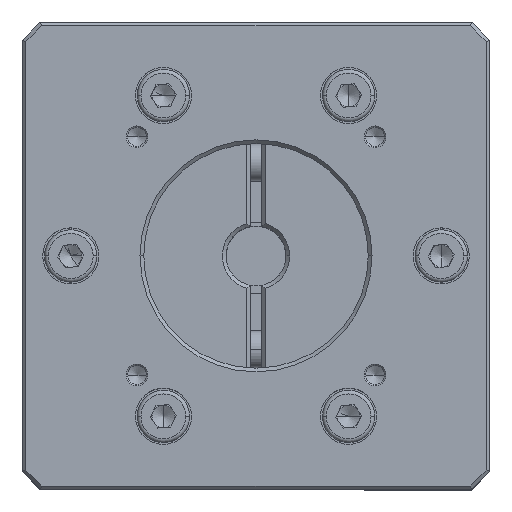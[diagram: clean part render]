
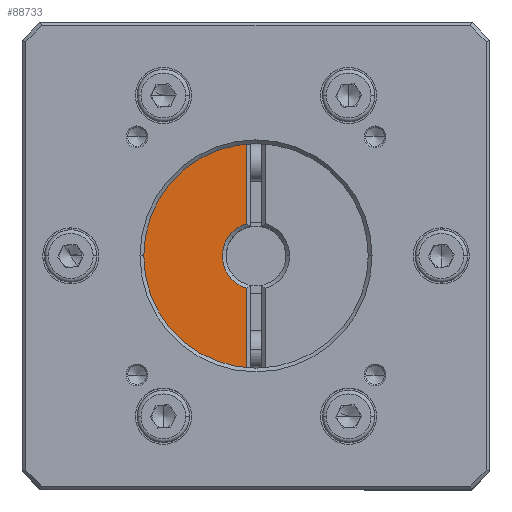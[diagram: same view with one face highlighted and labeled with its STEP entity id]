
A CAD part, top view. The second image highlights one B-rep face of the part: STEP entity #88733.
In plain terms, the highlighted planar face has unit normal (0, 0, 1).
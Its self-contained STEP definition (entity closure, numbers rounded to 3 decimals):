
#146 = AXIS2_PLACEMENT_3D ( 'NONE', #30399, #96120, #39841 ) ;
#2401 = DIRECTION ( 'NONE',  ( -1., 0., 0. ) ) ;
#8067 = DIRECTION ( 'NONE',  ( -1., 0., 0. ) ) ;
#8273 = DIRECTION ( 'NONE',  ( -1., 0., 0. ) ) ;
#15557 = CARTESIAN_POINT ( 'NONE',  ( -96.388, 23.814, 17.777 ) ) ;
#15765 = CARTESIAN_POINT ( 'NONE',  ( -96.388, 38.677, 17.777 ) ) ;
#17104 = PLANE ( 'NONE',  #91481 ) ;
#17111 = VECTOR ( 'NONE', #24614, 1000. ) ;
#20002 = LINE ( 'NONE', #15557, #17111 ) ;
#24614 = DIRECTION ( 'NONE',  ( 0., 1., 0. ) ) ;
#25737 = VECTOR ( 'NONE', #89678, 1000. ) ;
#29955 = EDGE_CURVE ( 'NONE', #76092, #60660, #97754, .T. ) ;
#30399 = CARTESIAN_POINT ( 'NONE',  ( -95.138, 43., 17.777 ) ) ;
#33816 = CARTESIAN_POINT ( 'NONE',  ( -96.388, 23.814, 17.777 ) ) ;
#34830 = VERTEX_POINT ( 'NONE', #106651 ) ;
#37569 = FACE_OUTER_BOUND ( 'NONE', #90588, .T. ) ;
#39841 = DIRECTION ( 'NONE',  ( 0., 1., 0. ) ) ;
#45210 = EDGE_CURVE ( 'NONE', #69476, #60660, #49281, .T. ) ;
#47308 = ORIENTED_EDGE ( 'NONE', *, *, #54767, .T. ) ;
#49281 = CIRCLE ( 'NONE', #117344, 17. ) ;
#49663 = CARTESIAN_POINT ( 'NONE',  ( -96.388, 47.322, 17.777 ) ) ;
#54767 = EDGE_CURVE ( 'NONE', #34830, #87846, #20002, .T. ) ;
#56676 = ORIENTED_EDGE ( 'NONE', *, *, #90221, .F. ) ;
#58667 = DIRECTION ( 'NONE',  ( 0., 0., -1. ) ) ;
#60660 = VERTEX_POINT ( 'NONE', #117383 ) ;
#64330 = DIRECTION ( 'NONE',  ( 0., 0., -1. ) ) ;
#64531 = DIRECTION ( 'NONE',  ( 0., 0., -1. ) ) ;
#68321 = CIRCLE ( 'NONE', #146, 4.5 ) ;
#69476 = VERTEX_POINT ( 'NONE', #119864 ) ;
#76092 = VERTEX_POINT ( 'NONE', #49663 ) ;
#77175 = ORIENTED_EDGE ( 'NONE', *, *, #29955, .T. ) ;
#87846 = VERTEX_POINT ( 'NONE', #15765 ) ;
#88733 = ADVANCED_FACE ( 'NONE', ( #37569 ), #17104, .F. ) ;
#89678 = DIRECTION ( 'NONE',  ( 0., 1., 0. ) ) ;
#90221 = EDGE_CURVE ( 'NONE', #34830, #69476, #119495, .T. ) ;
#90588 = EDGE_LOOP ( 'NONE', ( #56676, #47308, #118647, #77175, #117606 ) ) ;
#91481 = AXIS2_PLACEMENT_3D ( 'NONE', #120660, #64330, #8067 ) ;
#96120 = DIRECTION ( 'NONE',  ( 0., 0., 1. ) ) ;
#96855 = EDGE_CURVE ( 'NONE', #76092, #87846, #68321, .T. ) ;
#97754 = LINE ( 'NONE', #33816, #25737 ) ;
#106651 = CARTESIAN_POINT ( 'NONE',  ( -96.388, 26.046, 17.777 ) ) ;
#112892 = AXIS2_PLACEMENT_3D ( 'NONE', #115026, #58667, #2401 ) ;
#115026 = CARTESIAN_POINT ( 'NONE',  ( -95.138, 43., 17.777 ) ) ;
#117344 = AXIS2_PLACEMENT_3D ( 'NONE', #120864, #64531, #8273 ) ;
#117383 = CARTESIAN_POINT ( 'NONE',  ( -96.388, 59.954, 17.777 ) ) ;
#117606 = ORIENTED_EDGE ( 'NONE', *, *, #45210, .F. ) ;
#118647 = ORIENTED_EDGE ( 'NONE', *, *, #96855, .F. ) ;
#119495 = CIRCLE ( 'NONE', #112892, 17. ) ;
#119864 = CARTESIAN_POINT ( 'NONE',  ( -112.138, 43., 17.777 ) ) ;
#120660 = CARTESIAN_POINT ( 'NONE',  ( -95.138, 60.5, 17.777 ) ) ;
#120864 = CARTESIAN_POINT ( 'NONE',  ( -95.138, 43., 17.777 ) ) ;
